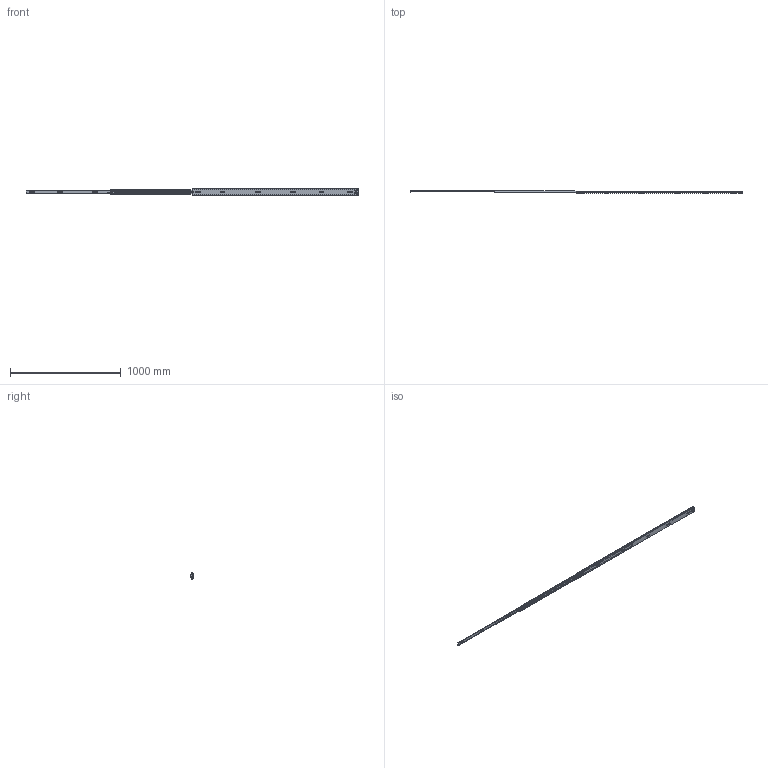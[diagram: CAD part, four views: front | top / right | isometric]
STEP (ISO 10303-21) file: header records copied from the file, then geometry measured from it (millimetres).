
FILE_DESCRIPTION((''),'2;1');
FILE_NAME('DG-57-01ZUZHUANGTU-60_ASM','2024-03-22T',('jishu015'),(''),'PRO/ENGINEER BY PARAMETRIC TECHNOLOGY CORPORATION, 2010280','PRO/ENGINEER BY PARAMETRIC TECHNOLOGY CORPORATION, 2010280','');
FILE_SCHEMA(('CONFIG_CONTROL_DESIGN'));
Products named in the file (15): KP-57-01WEIKE-32____; 1057WEIJIAO_________; 1057DAZHUJIA-20GE_____; 1057ZHUJIADANWEIJIAO_________; 1057-5-6GANZHU_________; 1057DAZHUJIA-20GE__________ASM; KP-57-01ZHONGGUI-18_________; ZHIDI________; KP-57-01ZHONGGUI-18__________ASM; 1057XIAOZHUJIA___20_____; 1057XIAOZHUJIA-20GE______ASM; KP-57-01NEIGUI-24_____; CHA-1________; KP-57-01NEIGUI-24______ASM; DG-57-01ZUZHUANGTU-60_ASM
Assembly tree (238 placements, depth 3):
  DG-57-01ZUZHUANGTU-60_ASM
    KP-57-01WEIKE-32____
    1057WEIJIAO_________
    1057DAZHUJIA-20GE__________ASM
      1057DAZHUJIA-20GE_____
      1057ZHUJIADANWEIJIAO_________  x2
      1057-5-6GANZHU_________  x112
    KP-57-01ZHONGGUI-18__________ASM
      KP-57-01ZHONGGUI-18_________
      ZHIDI________
    1057XIAOZHUJIA-20GE______ASM
      1057XIAOZHUJIA___20_____
      1057-5-6GANZHU_________  x112
    KP-57-01NEIGUI-24______ASM
      KP-57-01NEIGUI-24_____
      CHA-1________
Bounding box: 3000 x 19.2 x 57.65 mm (x, y, z)
Volume: 663439.3 mm3; surface area: 775048.1 mm2
Topology: 234 solids, 234 shells, 5408 faces, 15217 edges, 9373 vertices
Faces by surface type: plane 2482, cylinder 2266, sphere 452, bspline 108, cone 94, torus 6
Entity records: 166089 total; most frequent: CARTESIAN_POINT 33008, DIRECTION 28386, ORIENTED_EDGE 27570, EDGE_CURVE 13785, AXIS2_PLACEMENT_3D 9725, VECTOR 8936, LINE 8936, VERTEX_POINT 8870
